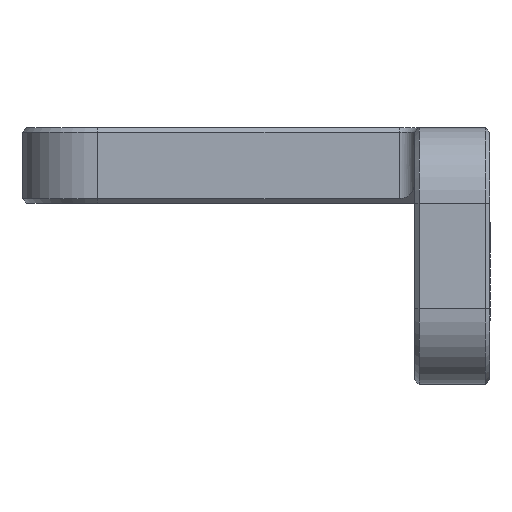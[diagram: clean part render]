
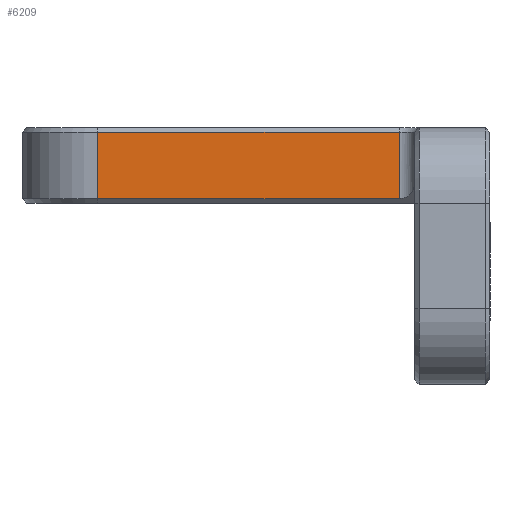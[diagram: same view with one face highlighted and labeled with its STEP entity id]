
A CAD part, front view. The second image highlights one B-rep face of the part: STEP entity #6209.
In plain terms, the highlighted planar face has unit normal (0, -1, 0).
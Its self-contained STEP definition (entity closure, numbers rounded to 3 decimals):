
#155 = VECTOR ( 'NONE', #4121, 1000. ) ;
#361 = LINE ( 'NONE', #5491, #155 ) ;
#393 = DIRECTION ( 'NONE',  ( 0., 1., 0. ) ) ;
#642 = CARTESIAN_POINT ( 'NONE',  ( -8., -45., 4.7 ) ) ;
#793 = VECTOR ( 'NONE', #7716, 1000. ) ;
#883 = ORIENTED_EDGE ( 'NONE', *, *, #3501, .T. ) ;
#1012 = FACE_OUTER_BOUND ( 'NONE', #4836, .T. ) ;
#1338 = ORIENTED_EDGE ( 'NONE', *, *, #1612, .T. ) ;
#1453 = VERTEX_POINT ( 'NONE', #3296 ) ;
#1612 = EDGE_CURVE ( 'NONE', #1453, #5994, #4863, .T. ) ;
#2020 = EDGE_CURVE ( 'NONE', #5994, #3945, #361, .T. ) ;
#2353 = DIRECTION ( 'NONE',  ( 0., 0., 1. ) ) ;
#3296 = CARTESIAN_POINT ( 'NONE',  ( -8., -45., 4.7 ) ) ;
#3480 = VECTOR ( 'NONE', #2353, 1000. ) ;
#3501 = EDGE_CURVE ( 'NONE', #3945, #3587, #8130, .T. ) ;
#3558 = PLANE ( 'NONE',  #7330 ) ;
#3587 = VERTEX_POINT ( 'NONE', #7412 ) ;
#3945 = VERTEX_POINT ( 'NONE', #7491 ) ;
#4015 = VECTOR ( 'NONE', #6687, 1000. ) ;
#4121 = DIRECTION ( 'NONE',  ( 1., 0., 0. ) ) ;
#4228 = CARTESIAN_POINT ( 'NONE',  ( 12., -45., 5. ) ) ;
#4836 = EDGE_LOOP ( 'NONE', ( #883, #8046, #1338, #6037 ) ) ;
#4863 = LINE ( 'NONE', #6049, #4015 ) ;
#5491 = CARTESIAN_POINT ( 'NONE',  ( -13., -45., 0.3 ) ) ;
#5994 = VERTEX_POINT ( 'NONE', #7634 ) ;
#6037 = ORIENTED_EDGE ( 'NONE', *, *, #2020, .T. ) ;
#6045 = EDGE_CURVE ( 'NONE', #3587, #1453, #6996, .T. ) ;
#6049 = CARTESIAN_POINT ( 'NONE',  ( -8., -45., 5. ) ) ;
#6104 = DIRECTION ( 'NONE',  ( 0., 0., 1. ) ) ;
#6209 = ADVANCED_FACE ( 'NONE', ( #1012 ), #3558, .F. ) ;
#6687 = DIRECTION ( 'NONE',  ( 0., 0., -1. ) ) ;
#6996 = LINE ( 'NONE', #642, #793 ) ;
#7330 = AXIS2_PLACEMENT_3D ( 'NONE', #7378, #393, #6104 ) ;
#7378 = CARTESIAN_POINT ( 'NONE',  ( -13., -45., 5. ) ) ;
#7412 = CARTESIAN_POINT ( 'NONE',  ( 12., -45., 4.7 ) ) ;
#7491 = CARTESIAN_POINT ( 'NONE',  ( 12., -45., 0.3 ) ) ;
#7634 = CARTESIAN_POINT ( 'NONE',  ( -8., -45., 0.3 ) ) ;
#7716 = DIRECTION ( 'NONE',  ( -1., 0., 0. ) ) ;
#8046 = ORIENTED_EDGE ( 'NONE', *, *, #6045, .T. ) ;
#8130 = LINE ( 'NONE', #4228, #3480 ) ;
